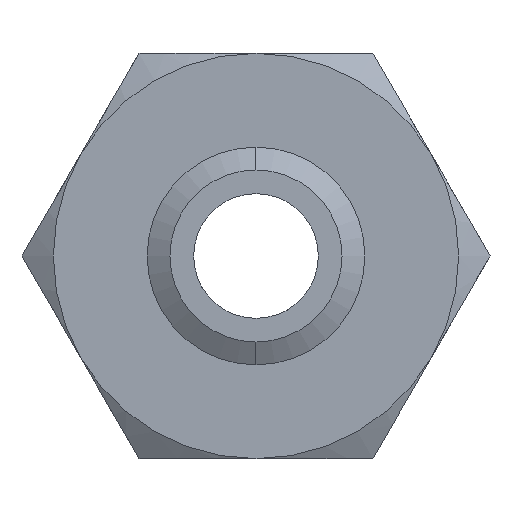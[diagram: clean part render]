
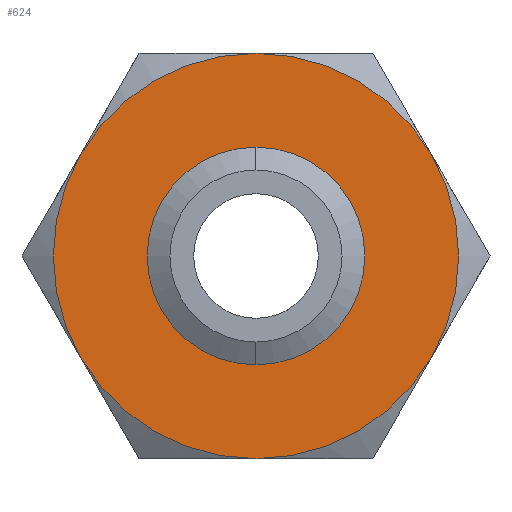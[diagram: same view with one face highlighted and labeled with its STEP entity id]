
A CAD part, front view. The second image highlights one B-rep face of the part: STEP entity #624.
In plain terms, the highlighted planar face has unit normal (0, -1, 0).
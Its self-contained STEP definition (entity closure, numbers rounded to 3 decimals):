
#66 = VERTEX_POINT ( 'NONE', #515 ) ;
#72 = EDGE_CURVE ( 'NONE', #66, #74, #507, .T. ) ;
#74 = VERTEX_POINT ( 'NONE', #502 ) ;
#236 = EDGE_CURVE ( 'NONE', #237, #238, #830, .T. ) ;
#237 = VERTEX_POINT ( 'NONE', #825 ) ;
#238 = VERTEX_POINT ( 'NONE', #824 ) ;
#497 = EDGE_LOOP ( 'NONE', ( #559, #1856, #1844, #1839, #1841, #2001 ) ) ;
#502 = CARTESIAN_POINT ( 'NONE',  ( 28.146, 0., 16.25 ) ) ;
#503 = DIRECTION ( 'NONE',  ( 0., 0., 1. ) ) ;
#504 = DIRECTION ( 'NONE',  ( 0., 1., 0. ) ) ;
#505 = CARTESIAN_POINT ( 'NONE',  ( 0., 0., 0. ) ) ;
#506 = AXIS2_PLACEMENT_3D ( 'NONE', #505, #504, #503 ) ;
#507 = CIRCLE ( 'NONE', #506, 32.5 ) ;
#515 = CARTESIAN_POINT ( 'NONE',  ( 0., 0., 32.5 ) ) ;
#559 = ORIENTED_EDGE ( 'NONE', *, *, #72, .F. ) ;
#624 = ADVANCED_FACE ( 'NONE', ( #1068, #1067 ), #1070, .F. ) ;
#824 = CARTESIAN_POINT ( 'NONE',  ( 0., 0., 13.802 ) ) ;
#825 = CARTESIAN_POINT ( 'NONE',  ( 0., 0., -13.802 ) ) ;
#826 = DIRECTION ( 'NONE',  ( 0., 0., -1. ) ) ;
#827 = DIRECTION ( 'NONE',  ( 0., -1., 0. ) ) ;
#828 = CARTESIAN_POINT ( 'NONE',  ( 0., 0., 0. ) ) ;
#829 = AXIS2_PLACEMENT_3D ( 'NONE', #828, #827, #826 ) ;
#830 = CIRCLE ( 'NONE', #829, 13.802 ) ;
#1067 = FACE_BOUND ( 'NONE', #1982, .T. ) ;
#1068 = FACE_OUTER_BOUND ( 'NONE', #497, .T. ) ;
#1069 = AXIS2_PLACEMENT_3D ( 'NONE', #1133, #1132, #1131 ) ;
#1070 = PLANE ( 'NONE',  #1069 ) ;
#1107 = DIRECTION ( 'NONE',  ( 0., 0., 1. ) ) ;
#1108 = DIRECTION ( 'NONE',  ( 0., 1., 0. ) ) ;
#1109 = CARTESIAN_POINT ( 'NONE',  ( 0., 0., 0. ) ) ;
#1110 = AXIS2_PLACEMENT_3D ( 'NONE', #1109, #1108, #1107 ) ;
#1111 = CIRCLE ( 'NONE', #1110, 32.5 ) ;
#1113 = CARTESIAN_POINT ( 'NONE',  ( 28.146, 0., -16.25 ) ) ;
#1131 = DIRECTION ( 'NONE',  ( 0., 0., 1. ) ) ;
#1132 = DIRECTION ( 'NONE',  ( 0., 1., 0. ) ) ;
#1133 = CARTESIAN_POINT ( 'NONE',  ( 18.764, 0., -32.5 ) ) ;
#1146 = DIRECTION ( 'NONE',  ( 0., 0., 1. ) ) ;
#1147 = DIRECTION ( 'NONE',  ( 0., 1., 0. ) ) ;
#1148 = AXIS2_PLACEMENT_3D ( 'NONE', #1156, #1147, #1146 ) ;
#1149 = CIRCLE ( 'NONE', #1148, 32.5 ) ;
#1151 = DIRECTION ( 'NONE',  ( 0., 0., 1. ) ) ;
#1152 = DIRECTION ( 'NONE',  ( 0., 1., 0. ) ) ;
#1153 = CARTESIAN_POINT ( 'NONE',  ( 0., 0., 0. ) ) ;
#1154 = AXIS2_PLACEMENT_3D ( 'NONE', #1153, #1152, #1151 ) ;
#1155 = CIRCLE ( 'NONE', #1154, 32.5 ) ;
#1156 = CARTESIAN_POINT ( 'NONE',  ( 0., 0., 0. ) ) ;
#1157 = CARTESIAN_POINT ( 'NONE',  ( -28.146, 0., 16.25 ) ) ;
#1158 = CARTESIAN_POINT ( 'NONE',  ( 0., 0., -32.5 ) ) ;
#1159 = DIRECTION ( 'NONE',  ( 0., 0., 1. ) ) ;
#1160 = DIRECTION ( 'NONE',  ( 0., 1., 0. ) ) ;
#1161 = CARTESIAN_POINT ( 'NONE',  ( 0., 0., 0. ) ) ;
#1162 = AXIS2_PLACEMENT_3D ( 'NONE', #1161, #1160, #1159 ) ;
#1163 = CIRCLE ( 'NONE', #1162, 32.5 ) ;
#1164 = CARTESIAN_POINT ( 'NONE',  ( -28.146, 0., -16.25 ) ) ;
#1465 = CARTESIAN_POINT ( 'NONE',  ( 0., 0., 0. ) ) ;
#1515 = DIRECTION ( 'NONE',  ( 0., 0., 1. ) ) ;
#1516 = DIRECTION ( 'NONE',  ( 0., 1., 0. ) ) ;
#1517 = CARTESIAN_POINT ( 'NONE',  ( 0., 0., 0. ) ) ;
#1518 = AXIS2_PLACEMENT_3D ( 'NONE', #1517, #1516, #1515 ) ;
#1519 = CIRCLE ( 'NONE', #1518, 32.5 ) ;
#1520 = DIRECTION ( 'NONE',  ( 0., 0., -1. ) ) ;
#1521 = DIRECTION ( 'NONE',  ( 0., -1., 0. ) ) ;
#1522 = AXIS2_PLACEMENT_3D ( 'NONE', #1465, #1521, #1520 ) ;
#1523 = CIRCLE ( 'NONE', #1522, 13.802 ) ;
#1835 = VERTEX_POINT ( 'NONE', #1113 ) ;
#1836 = EDGE_CURVE ( 'NONE', #1835, #1842, #1111, .T. ) ;
#1838 = VERTEX_POINT ( 'NONE', #1164 ) ;
#1839 = ORIENTED_EDGE ( 'NONE', *, *, #1840, .F. ) ;
#1840 = EDGE_CURVE ( 'NONE', #1842, #1838, #1163, .T. ) ;
#1841 = ORIENTED_EDGE ( 'NONE', *, *, #1836, .F. ) ;
#1842 = VERTEX_POINT ( 'NONE', #1158 ) ;
#1843 = VERTEX_POINT ( 'NONE', #1157 ) ;
#1844 = ORIENTED_EDGE ( 'NONE', *, *, #1845, .F. ) ;
#1845 = EDGE_CURVE ( 'NONE', #1838, #1843, #1155, .T. ) ;
#1846 = EDGE_CURVE ( 'NONE', #1843, #66, #1149, .T. ) ;
#1856 = ORIENTED_EDGE ( 'NONE', *, *, #1846, .F. ) ;
#1982 = EDGE_LOOP ( 'NONE', ( #1987, #1986 ) ) ;
#1986 = ORIENTED_EDGE ( 'NONE', *, *, #2000, .F. ) ;
#1987 = ORIENTED_EDGE ( 'NONE', *, *, #236, .F. ) ;
#2000 = EDGE_CURVE ( 'NONE', #238, #237, #1523, .T. ) ;
#2001 = ORIENTED_EDGE ( 'NONE', *, *, #2002, .F. ) ;
#2002 = EDGE_CURVE ( 'NONE', #74, #1835, #1519, .T. ) ;
